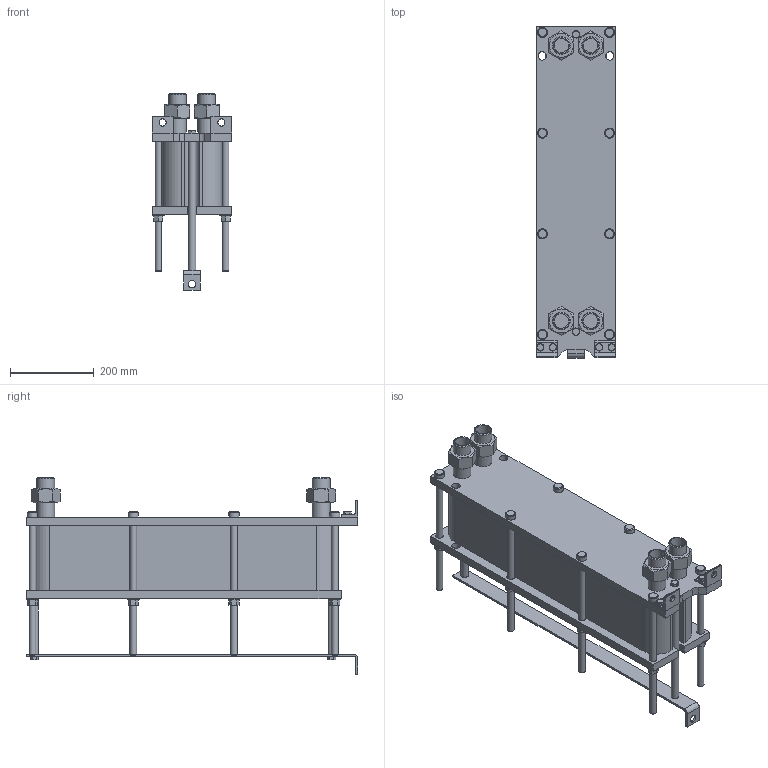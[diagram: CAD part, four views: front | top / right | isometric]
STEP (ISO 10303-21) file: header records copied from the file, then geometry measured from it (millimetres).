
FILE_DESCRIPTION(/* description */ (''),/* implementation_level */ '2;1');
FILE_NAME(/* name */ 'C:\Users\zhuro\Desktop\ENCO\TO\ЭН-008\ЭН-0,5-008-50-1.stp',/* time_stamp */ '2022-06-06T10:49:20+03:00',/* author */ ('zhuro'),/* organization */ (''),/* preprocessor_version */ 'ST-DEVELOPER v18.1',/* originating_system */ 'Autodesk Inventor 2022',/* authorisation */ '');
FILE_SCHEMA (('AUTOMOTIVE_DESIGN { 1 0 10303 214 3 1 1 }'));
Length unit declared in the file: millimetre
Products named in the file (1): ЭН-0,5-008-50-1
Bounding box: 190 x 790 x 469 mm (x, y, z)
Volume: 22560322.9 mm3; surface area: 1598583.3 mm2
Topology: 40 solids, 40 shells, 428 faces, 924 edges, 606 vertices
Faces by surface type: plane 273, cylinder 109, cone 40, torus 6
Full cylindrical faces by diameter (mm): 12 x6, 14 x2, 16 x20, 17 x8, 18 x19, 20 x5, 24 x8, 28 x8, 34.3 x8, 42.3 x8
Entity records: 15843 total; most frequent: CARTESIAN_POINT 5991, DIRECTION 1984, ORIENTED_EDGE 1848, EDGE_CURVE 924, AXIS2_PLACEMENT_3D 715, VERTEX_POINT 606, LINE 554, VECTOR 554
